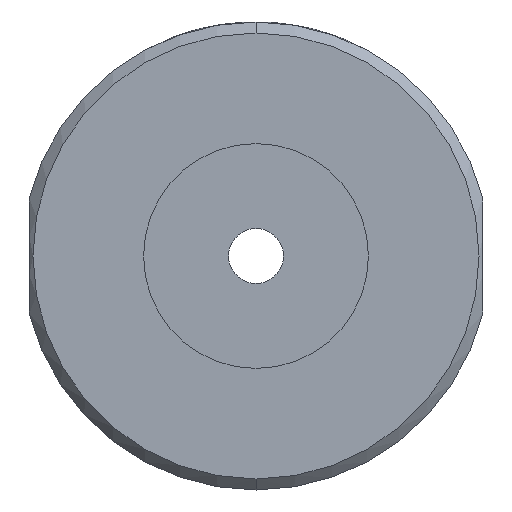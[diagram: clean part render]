
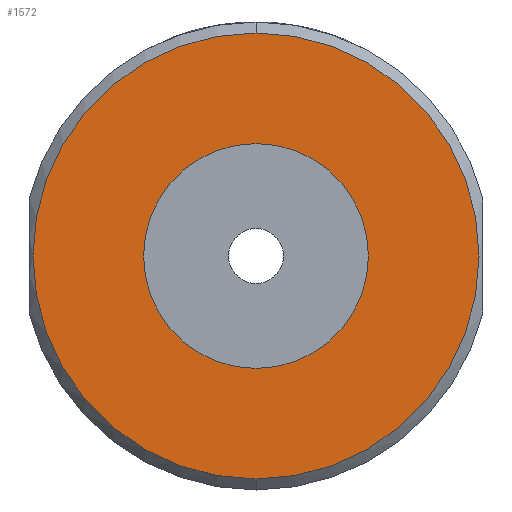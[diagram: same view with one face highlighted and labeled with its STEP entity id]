
A CAD part, front view. The second image highlights one B-rep face of the part: STEP entity #1572.
In plain terms, the highlighted planar face has unit normal (0, -1, 0).
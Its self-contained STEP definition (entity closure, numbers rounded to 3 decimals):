
#926 = VERTEX_POINT ( 'NONE', #3360 ) ;
#985 = EDGE_CURVE ( 'NONE', #926, #986, #3577, .T. ) ;
#986 = VERTEX_POINT ( 'NONE', #3722 ) ;
#1024 = EDGE_CURVE ( 'NONE', #1025, #1026, #3643, .T. ) ;
#1025 = VERTEX_POINT ( 'NONE', #3638 ) ;
#1026 = VERTEX_POINT ( 'NONE', #3637 ) ;
#1339 = ORIENTED_EDGE ( 'NONE', *, *, #1346, .T. ) ;
#1346 = EDGE_CURVE ( 'NONE', #1026, #1025, #4416, .T. ) ;
#1347 = ORIENTED_EDGE ( 'NONE', *, *, #1024, .T. ) ;
#1572 = ADVANCED_FACE ( 'NONE', ( #4798, #4797 ), #4796, .F. ) ;
#1573 = ORIENTED_EDGE ( 'NONE', *, *, #1574, .F. ) ;
#1574 = EDGE_CURVE ( 'NONE', #986, #926, #4791, .T. ) ;
#1575 = ORIENTED_EDGE ( 'NONE', *, *, #985, .F. ) ;
#1579 = EDGE_LOOP ( 'NONE', ( #1573, #1575 ) ) ;
#1643 = EDGE_LOOP ( 'NONE', ( #1339, #1347 ) ) ;
#3360 = CARTESIAN_POINT ( 'NONE',  ( 0., 0., 15.375 ) ) ;
#3574 = DIRECTION ( 'NONE',  ( 0., -1., 0. ) ) ;
#3575 = CARTESIAN_POINT ( 'NONE',  ( 0., 0., 0. ) ) ;
#3576 = AXIS2_PLACEMENT_3D ( 'NONE', #3575, #3574, #3723 ) ;
#3577 = CIRCLE ( 'NONE', #3576, 15.375 ) ;
#3637 = CARTESIAN_POINT ( 'NONE',  ( 0., 0., 30.5 ) ) ;
#3638 = CARTESIAN_POINT ( 'NONE',  ( 0., 0., -30.5 ) ) ;
#3639 = DIRECTION ( 'NONE',  ( 0., 0., 1. ) ) ;
#3640 = DIRECTION ( 'NONE',  ( 0., -1., 0. ) ) ;
#3641 = CARTESIAN_POINT ( 'NONE',  ( 0., 0., 0. ) ) ;
#3642 = AXIS2_PLACEMENT_3D ( 'NONE', #3641, #3640, #3639 ) ;
#3643 = CIRCLE ( 'NONE', #3642, 30.5 ) ;
#3722 = CARTESIAN_POINT ( 'NONE',  ( 0., 0., -15.375 ) ) ;
#3723 = DIRECTION ( 'NONE',  ( 0., 0., -1. ) ) ;
#4413 = DIRECTION ( 'NONE',  ( 0., -1., 0. ) ) ;
#4414 = CARTESIAN_POINT ( 'NONE',  ( 0., 0., 0. ) ) ;
#4415 = AXIS2_PLACEMENT_3D ( 'NONE', #4414, #4413, #4452 ) ;
#4416 = CIRCLE ( 'NONE', #4415, 30.5 ) ;
#4452 = DIRECTION ( 'NONE',  ( 0., 0., 1. ) ) ;
#4787 = DIRECTION ( 'NONE',  ( 0., 0., -1. ) ) ;
#4788 = DIRECTION ( 'NONE',  ( 0., -1., 0. ) ) ;
#4789 = CARTESIAN_POINT ( 'NONE',  ( 0., 0., 0. ) ) ;
#4790 = AXIS2_PLACEMENT_3D ( 'NONE', #4789, #4788, #4787 ) ;
#4791 = CIRCLE ( 'NONE', #4790, 15.375 ) ;
#4792 = DIRECTION ( 'NONE',  ( 0., 0., 1. ) ) ;
#4793 = DIRECTION ( 'NONE',  ( 0., 1., 0. ) ) ;
#4794 = CARTESIAN_POINT ( 'NONE',  ( 0., 0., 0. ) ) ;
#4795 = AXIS2_PLACEMENT_3D ( 'NONE', #4794, #4793, #4792 ) ;
#4796 = PLANE ( 'NONE',  #4795 ) ;
#4797 = FACE_OUTER_BOUND ( 'NONE', #1643, .T. ) ;
#4798 = FACE_BOUND ( 'NONE', #1579, .T. ) ;
